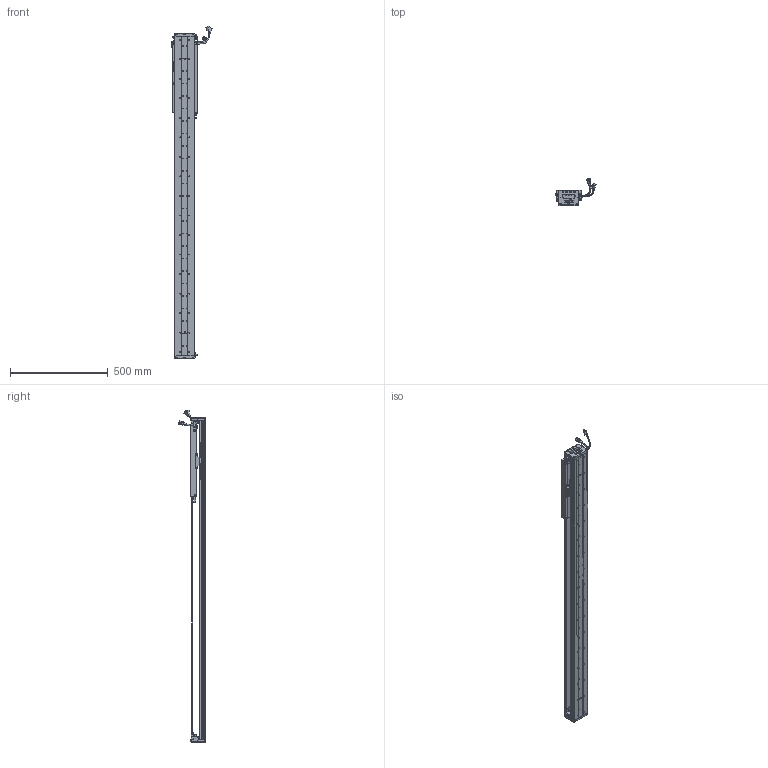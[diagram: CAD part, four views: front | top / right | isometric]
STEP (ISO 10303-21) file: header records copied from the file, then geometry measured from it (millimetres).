
FILE_DESCRIPTION (( 'STEP AP203' ), '1' );
FILE_NAME ('Z5-RY100D-1-L500-B-K.SLDASM_1200.step', '2021-05-17T03:33:15', ( '盈信电脑' ), ( '东莞市道滘镇水果街19号' ), 'SwSTEP 2.0', 'SolidWorks 2016', '' );
FILE_SCHEMA (( 'CONFIG_CONTROL_DESIGN' ));
Length unit declared in the file: millimetre
Products named in the file (36): LABEL-Part-1; SCREW-M1.7; SCALE-Part-1; 080黍杅芛假蚾釱21遴; HARNESS-Part-1; Z-RY100D詩湍奻揤裔; 140蚥薯蝶輸; Z-RY100D覜茼んえ; SEAL-Part-1; 100-Z-臏賑輸盄裔(21遴); HARNESS-Part-2; SCREW-M1.6; PBU_SHEET; 榋妏寠巭燃_暯_M2_2; COVER-Part-1; Z5-RY100铝滑块（21款）; Z-RY100D詩湍狟揤裔; PSLH080_PSLF2; HARNESS; Z5-RY100-L500詩湍90mm遵_1200; SCREW-M1.6-1; SCALE; SCREW-M1.6-3; SCALE-Part-2; 140雄赽晤鎢ん堤盄; Z5-RY100D-1-L500-B-K.SLDASM_1200; SHIELDPLATE; Z-100詩湍傷裔啣; LABEL; HOLDER0; 覜茼ん672; SCREW-M1.6-2; COVER; SEAL; Z5-RY100D-500-倰第菁釱_1200; SCREW-M1.7-1
Assembly tree (43 placements, depth 4):
  Z5-RY100D-1-L500-B-K.SLDASM_1200
    Z5-RY100D-500-倰第菁釱_1200
    Z5-RY100铝滑块（21款）
    PSLH080_PSLF2
      SCALE
        SCALE-Part-1
        SCALE-Part-2
      HARNESS
        HARNESS-Part-1
        HARNESS-Part-2
      LABEL
        LABEL-Part-1
      COVER
        COVER-Part-1
      SEAL
        SEAL-Part-1
      榋妏寠巭燃_暯_M2_2
      SHIELDPLATE
      SCREW-M1.7
      SCREW-M1.7-1
      PBU_SHEET
      SCREW-M1.6
      SCREW-M1.6-1
      SCREW-M1.6-2
      SCREW-M1.6-3
      HOLDER0
    080黍杅芛假蚾釱21遴
    Z-100詩湍傷裔啣  x2
    140蚥薯蝶輸  x2
    覜茼ん672  x3
    Z-RY100D覜茼んえ  x3
    100-Z-臏賑輸盄裔(21遴)
    140雄赽晤鎢ん堤盄
    Z5-RY100-L500詩湍90mm遵_1200
    Z-RY100D詩湍狟揤裔  x2
    Z-RY100D詩湍奻揤裔  x2
Bounding box: 205.83 x 136.11 x 1700.43 mm (x, y, z)
Volume: 3548163.3 mm3; surface area: 1343613.8 mm2
Topology: 38 solids, 38 shells, 2763 faces, 7369 edges, 4680 vertices
Faces by surface type: cylinder 1266, plane 1149, cone 226, torus 69, bspline 53
Entity records: 77167 total; most frequent: CARTESIAN_POINT 16207, DIRECTION 12327, ORIENTED_EDGE 11618, EDGE_CURVE 5809, AXIS2_PLACEMENT_3D 4580, VERTEX_POINT 3748, LINE 3167, VECTOR 3167
